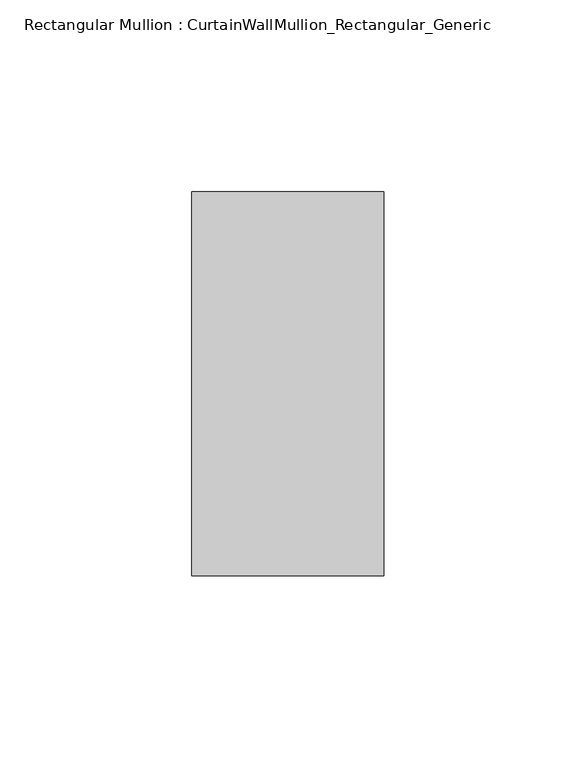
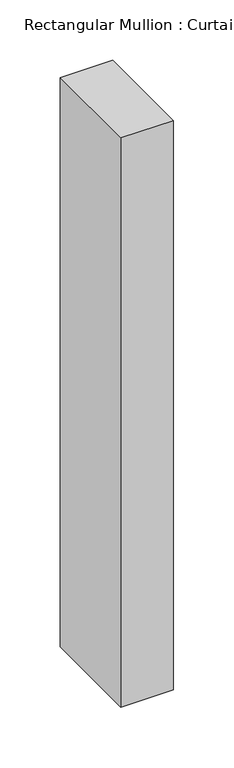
"""IFC4 building model written with IfcOpenShell, lengths in millimetres: member geometry, Rectangular Mullion : CurtainWallMullion_Rectangular_Generic."""

import ifcopenshell
import ifcopenshell.guid

model = None  # the IFC model being written
_history = None  # IfcOwnerHistory: only IFC2X3 demands one
_inside = {}  # id of a spatial element -> (the spatial element, [elements in it])
_under = {}  # id of a project, library or spatial element -> (it, [spatial elements below it])
_declared = {}  # id of a project -> (the project, [libraries it declares])
_typed = {}  # id of a type object -> (the type object, [elements of that type])
_made_of = {}  # id of a material, layer set ... -> (it, [elements and type objects made of it])


def new_model(schema):
    """Start an empty IFC model of exactly this schema.

    Asked for "IFC4X3", IfcOpenShell would pick the latest addendum, in which some entities
    have other attributes; the version numbers below select the first issue.
    IFC2X3 requires an IfcOwnerHistory on every rooted entity: one is made here for all.
    """
    global model, _history
    if schema == "IFC4X3":
        model = ifcopenshell.file(schema_version=(4, 3, 0, 0))
    else:
        model = ifcopenshell.file(schema=schema)
    _inside.clear()
    _under.clear()
    _declared.clear()
    _typed.clear()
    _made_of.clear()
    _history = None
    if model.schema == "IFC2X3":
        org = make("IfcOrganization", Name="unknown")
        user = make(
            "IfcPersonAndOrganization",
            ThePerson=make("IfcPerson", FamilyName="unknown"),
            TheOrganization=org,
        )
        app = make(
            "IfcApplication",
            ApplicationDeveloper=org,
            Version="unknown",
            ApplicationFullName="unknown",
            ApplicationIdentifier="unknown",
        )
        _history = make(
            "IfcOwnerHistory",
            OwningUser=user,
            OwningApplication=app,
            ChangeAction="ADDED",
            CreationDate=0,
        )
    return model


def make(cls, **values):
    """One entity of the class cls with the attributes given. An attribute that is None is left unset."""
    return model.create_entity(
        cls, **{name: value for name, value in values.items() if value is not None}
    )


def rooted(cls, **values):
    """An entity with a GlobalId (a new one), such as an element, a storey or a relation."""
    return make(cls, GlobalId=ifcopenshell.guid.new(), OwnerHistory=_history, **values)


def si_unit(unit_type, name, prefix=None):
    """IfcSIUnit, for example si_unit("LENGTHUNIT", "METRE", prefix="MILLI")."""
    return make("IfcSIUnit", UnitType=unit_type, Prefix=prefix, Name=name)


def assignment(units):
    """IfcUnitAssignment: the units of a project."""
    return None if units is None else make("IfcUnitAssignment", Units=units)


def point(xyz):
    """IfcCartesianPoint."""
    return None if xyz is None else make("IfcCartesianPoint", Coordinates=xyz)


def direction(xyz):
    """IfcDirection."""
    return None if xyz is None else make("IfcDirection", DirectionRatios=xyz)


def frame(location, z_axis=None, x_axis=None):
    """IfcAxis2Placement3D, a coordinate frame: its origin and axes. An axis left out is left unset."""
    return make(
        "IfcAxis2Placement3D",
        Location=point(location),
        Axis=direction(z_axis),
        RefDirection=direction(x_axis),
    )


def origin():
    """The frame at (0, 0, 0) with its axes left unset."""
    return frame((0.0, 0.0, 0.0))


def place(relative_to, where):
    """IfcLocalPlacement: puts the frame where relative to a parent placement (None: the world)."""
    return make(
        "IfcLocalPlacement", PlacementRelTo=relative_to, RelativePlacement=where
    )


def context(
    kind, dimensions, precision=None, world=None, true_north=None, identifier=None
):
    """IfcGeometricRepresentationContext, for example the 3D "Model" context."""
    return make(
        "IfcGeometricRepresentationContext",
        ContextIdentifier=identifier,
        ContextType=kind,
        CoordinateSpaceDimension=dimensions,
        Precision=precision,
        WorldCoordinateSystem=world,
        TrueNorth=true_north,
    )


def project(units=None, contexts=None):
    """IfcProject with its units and contexts."""
    return rooted(
        "IfcProject",
        Name="project",
        RepresentationContexts=contexts,
        UnitsInContext=assignment(units),
    )


def spatial(cls, under=None, at=None, **own):
    """A site, building, storey or space (cls), placed at a placement, below another one or the project."""
    s = rooted(cls, ObjectPlacement=at, **own)
    if under is not None:
        _under.setdefault(under.id(), (under, []))[1].append(s)
    return s


def polyline(points):
    """IfcPolyline through the points."""
    return make("IfcPolyline", Points=[point(p) for p in points])


def outline(outer, holes=None, kind="AREA"):
    """IfcArbitraryClosedProfileDef: a profile drawn as a closed curve; with holes, ...WithVoids."""
    if holes is None:
        return make("IfcArbitraryClosedProfileDef", ProfileType=kind, OuterCurve=outer)
    return make(
        "IfcArbitraryProfileDefWithVoids",
        ProfileType=kind,
        OuterCurve=outer,
        InnerCurves=holes,
    )


def extrude(swept, where, along, depth):
    """IfcExtrudedAreaSolid: the profile swept, set in the frame where, extruded along a direction by depth."""
    return make(
        "IfcExtrudedAreaSolid",
        SweptArea=swept,
        Position=where,
        ExtrudedDirection=direction(along),
        Depth=depth,
    )


def shape(context_of_items, identifier, shape_type, items):
    """IfcShapeRepresentation: the items that make up one representation, for example the "Body"."""
    return make(
        "IfcShapeRepresentation",
        ContextOfItems=context_of_items,
        RepresentationIdentifier=identifier,
        RepresentationType=shape_type,
        Items=items,
    )


def source(mapping_origin, context_of_items, identifier, shape_type, items):
    """IfcRepresentationMap: a shape defined once, which mapped items show again and again."""
    return make(
        "IfcRepresentationMap",
        MappingOrigin=mapping_origin,
        MappedRepresentation=shape(context_of_items, identifier, shape_type, items),
    )


def transform(
    local_origin,
    x_axis=None,
    y_axis=None,
    z_axis=None,
    scale=None,
    scale2=None,
    scale3=None,
    uniform=True,
):
    """IfcCartesianTransformationOperator3D, or its non-uniform kind. x_axis, y_axis, z_axis: its Axis1, 2, 3."""
    if uniform:
        return make(
            "IfcCartesianTransformationOperator3D",
            Axis1=direction(x_axis),
            Axis2=direction(y_axis),
            LocalOrigin=point(local_origin),
            Scale=scale,
            Axis3=direction(z_axis),
        )
    return make(
        "IfcCartesianTransformationOperator3DnonUniform",
        Axis1=direction(x_axis),
        Axis2=direction(y_axis),
        LocalOrigin=point(local_origin),
        Scale=scale,
        Axis3=direction(z_axis),
        Scale2=scale2,
        Scale3=scale3,
    )


def mapped(mapping_source, mapping_target):
    """IfcMappedItem: shows the shape of a source again, moved by a transform."""
    return make(
        "IfcMappedItem", MappingSource=mapping_source, MappingTarget=mapping_target
    )


def made_of(thing, what):
    """Note that an element or type object is made of a material, layer set ...; save() writes the relation."""
    if what is not None:
        _made_of.setdefault(what.id(), (what, []))[1].append(thing)
    return thing


def element(
    cls,
    number,
    at=None,
    inside=None,
    cuts=None,
    type_object=None,
    material=None,
    context=None,
    identifier="Body",
    shape_type=None,
    held_by="IfcProductDefinitionShape",
    body=None,
    shapes=None,
    **own,
):
    """One element of the class cls, such as IfcWall. Its Tag is "e" and its number.

    at: its placement. inside: the storey or other place that contains it. cuts: it is an
    opening in that element (IfcRelVoidsElement). A single representation is given by context,
    identifier, shape_type and body (its items); several are given by shapes. held_by: the class
    of the entity that holds the representations. save() writes the other relations.
    """
    e = rooted(cls, Tag="e%d" % number, ObjectPlacement=at, **own)
    if body is not None:
        shapes = [shape(context, identifier, shape_type, body)]
    if shapes is not None:
        e.Representation = make(held_by, Representations=shapes)
    if inside is not None:
        _inside.setdefault(inside.id(), (inside, []))[1].append(e)
    if cuts is not None:
        rooted(
            "IfcRelVoidsElement", RelatingBuildingElement=cuts, RelatedOpeningElement=e
        )
    if type_object is not None:
        _typed.setdefault(type_object.id(), (type_object, []))[1].append(e)
    return made_of(e, material)


def aggregate(whole, parts):
    """IfcRelAggregates: a whole, such as a stair, and the parts it consists of."""
    return rooted("IfcRelAggregates", RelatingObject=whole, RelatedObjects=parts)


def save(model, path):
    """Write the relations noted so far, then the file.

    IfcRelAggregates (storeys below a building ...), IfcRelContainedInSpatialStructure (elements
    in a storey), IfcRelDefinesByType, IfcRelAssociatesMaterial and IfcRelDeclares: one each for
    every whole, place, type object, material and project.
    """
    for whole, parts in _under.values():
        aggregate(whole, parts)
    for where, things in _inside.values():
        rooted(
            "IfcRelContainedInSpatialStructure",
            RelatedElements=things,
            RelatingStructure=where,
        )
    for kind, things in _typed.values():
        rooted("IfcRelDefinesByType", RelatedObjects=things, RelatingType=kind)
    for what, things in _made_of.values():
        rooted("IfcRelAssociatesMaterial", RelatedObjects=things, RelatingMaterial=what)
    for by, libraries in _declared.values():
        rooted("IfcRelDeclares", RelatingContext=by, RelatedDefinitions=libraries)
    model.write(path)


def rectangular_mullion_curtainwallmullion_rectangular_generic_b2d53351(model_context):
    return source(origin(), model_context, "Body", "SweptSolid", [
        extrude(outline(polyline([(25.0, 50.0), (25.0, -50.0), (-25.0, -50.0), (-25.0, 50.0), (25.0, 50.0)])), frame((0.0, 0.0, -575.0), z_axis=(0.0, 0.0, 1.0), x_axis=(1.0, 0.0, 0.0)), (0.0, 0.0, 1.0), 575.0),
    ])


if __name__ == "__main__":
    model = new_model("IFC4")
    model_context = context("Model", 3, world=origin())
    ifc_project = project(units=[si_unit("LENGTHUNIT", "METRE", prefix="MILLI")], contexts=[model_context])
    site = spatial("IfcSite", under=ifc_project)
    building = spatial("IfcBuilding", under=site)
    placement = place(None, origin())
    rectangular_mullion_curtainwallmullion_rectangular_generic_shape = rectangular_mullion_curtainwallmullion_rectangular_generic_b2d53351(model_context)
    element("IfcMember", 1, ObjectType="Rectangular Mullion : CurtainWallMullion_Rectangular_Generic", at=placement, inside=building, context=model_context, shape_type="MappedRepresentation", body=[
        mapped(rectangular_mullion_curtainwallmullion_rectangular_generic_shape, transform((0.0, 0.0, 0.0), x_axis=(1.0, 0.0, 0.0), y_axis=(0.0, 1.0, 0.0), z_axis=(0.0, 0.0, 1.0))),
    ])
    save(model, "model.ifc")
